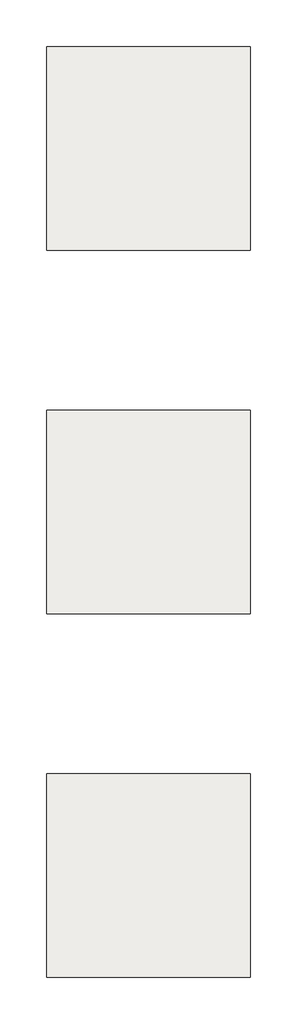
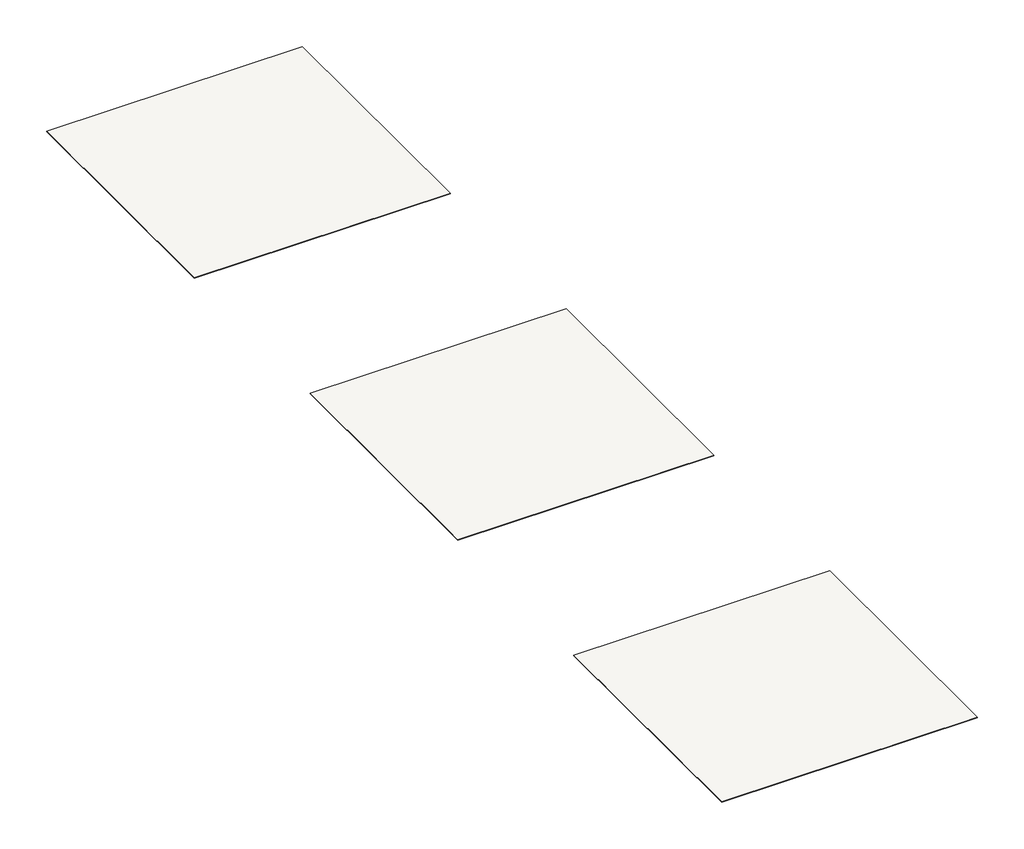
# One storey: 3 coverings.
"""IFC4 building model written with IfcOpenShell, lengths in millimetres."""

from ifc_helpers import new_model, si_unit, frame, origin, place, context, project, spatial, polyline, outline, extrude, element, save

model = new_model("IFC4")

# Units and contexts
model_context = context("Model", 3, world=origin())
ifc_project = project(units=[si_unit("LENGTHUNIT", "METRE", prefix="MILLI")], contexts=[model_context])

# Site, building, storey
site = spatial("IfcSite", under=ifc_project)
building = spatial("IfcBuilding", under=site)
storey = spatial("IfcBuildingStorey", under=building, Name="CamiraFabrics_TxtlRllCvrngs_RANGE", Elevation=0.0)

# Coverings
placement = place(None, origin())
element("IfcCovering", 1, ObjectType="CamiraFabrics_TxtlRllCvrngs_Rapido_Pigeon_RAP01", at=placement, inside=storey, context=model_context, shape_type="SweptSolid", body=[
    extrude(outline(polyline([(515.5073044, 1029.1514654), (515.5073044, -370.8485346), (-884.4926956, -370.8485346), (-884.4926956, 1029.1514654), (515.5073044, 1029.1514654)])), frame((0.0, 0.0, -2.0), z_axis=(0.0, 0.0, 1.0), x_axis=(1.0, 0.0, 0.0)), (0.0, 0.0, 1.0), 2.0),
])
element("IfcCovering", 2, ObjectType="CamiraFabrics_TxtlRllCvrngs_Rapido_Sail_RAP02", at=placement, inside=storey, context=model_context, shape_type="SweptSolid", body=[
    extrude(outline(polyline([(515.5073044, -1470.8485346), (515.5073044, -2870.8485346), (-884.4926956, -2870.8485346), (-884.4926956, -1470.8485346), (515.5073044, -1470.8485346)])), frame((0.0, 0.0, -2.0), z_axis=(0.0, 0.0, 1.0), x_axis=(1.0, 0.0, 0.0)), (0.0, 0.0, 1.0), 2.0),
])
element("IfcCovering", 3, ObjectType="CamiraFabrics_TxtlRllCvrngs_Rapido_Beetle_RAP03", at=placement, inside=storey, context=model_context, shape_type="SweptSolid", body=[
    extrude(outline(polyline([(515.5073044, -3970.8485346), (515.5073044, -5370.8485346), (-884.4926956, -5370.8485346), (-884.4926956, -3970.8485346), (515.5073044, -3970.8485346)])), frame((0.0, 0.0, -2.0), z_axis=(0.0, 0.0, 1.0), x_axis=(1.0, 0.0, 0.0)), (0.0, 0.0, 1.0), 2.0),
])

save(model, "model.ifc")
